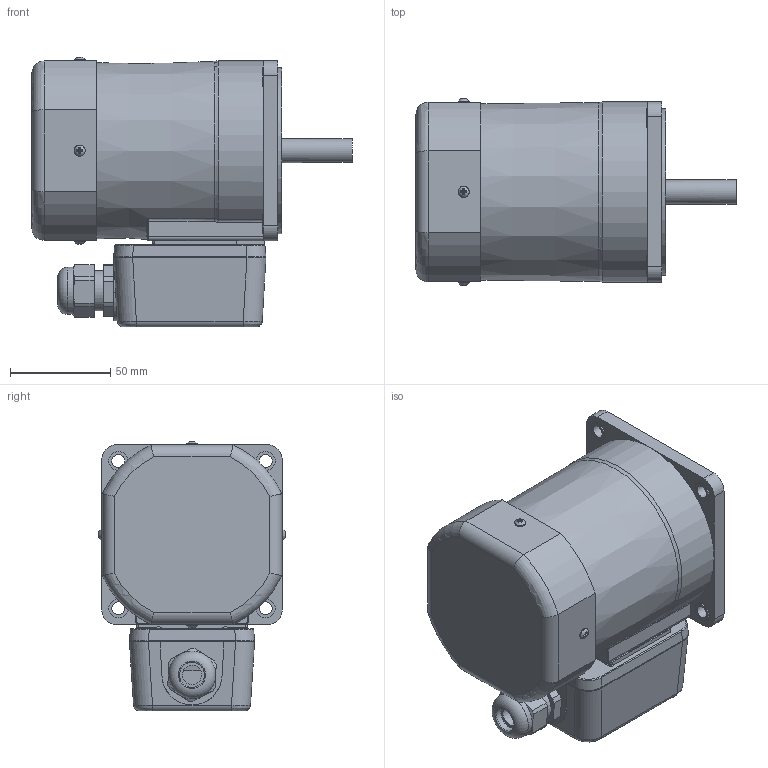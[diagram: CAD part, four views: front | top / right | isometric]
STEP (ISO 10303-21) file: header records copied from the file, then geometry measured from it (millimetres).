
FILE_DESCRIPTION((''),'2;1');
FILE_NAME('D:\김성묵\업무폴더\개발 파일\프로젝트 개발 AB등급\AC표준형 개발자료\90각 이하 표준형 개발\도면작성 자료\3D 도면\홈페이지용 3D 파일\60W MOTOR\T BOX TYPE\S9(I,R)60K-T.stp','2015-03-26T18:25:57',('smkim'),(''),'Autodesk Inventor 2012','Autodesk Inventor 2012','');
FILE_SCHEMA(('AUTOMOTIVE_DESIGN { 1 0 10303 214 1 1 1 1 }'));
Length unit declared in the file: millimetre
Products named in the file (7): S9(I,R)60K-T; S9I60GㅁTCE; FAN COVER; 552300620; 25W_T_BOX; S9I60K
Assembly tree (9 placements, depth 3):
  S9(I,R)60K-T
    S9I60GㅁTCE
    FAN COVER
      FAN COVER
      552300620  x4
    25W_T_BOX
    S9I60K
Bounding box: 159.8 x 93.49 x 134.75 mm (x, y, z)
Volume: 1086445.5 mm3; surface area: 114139.3 mm2
Topology: 8 solids, 15 shells, 498 faces, 1196 edges, 763 vertices
Faces by surface type: plane 265, cylinder 135, bspline 53, torus 33, cone 12
Full cylindrical faces by diameter (mm): 2.55 x2, 3 x8, 3.5 x4, 5.6 x8, 6.3 x4, 6.5 x4, 7 x1, 9 x1, 9.5 x4, 12 x1, 12.5 x1, 15 x1, 20 x2, 21 x1, 23.6 x1, 40 x1, 83 x1, 86 x1
Entity records: 14717 total; most frequent: CARTESIAN_POINT 4615, ORIENTED_EDGE 1922, DIRECTION 1919, EDGE_CURVE 961, AXIS2_PLACEMENT_3D 709, VERTEX_POINT 652, EDGE_LOOP 547, VECTOR 501
